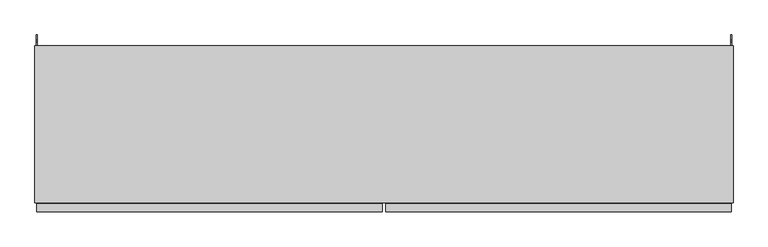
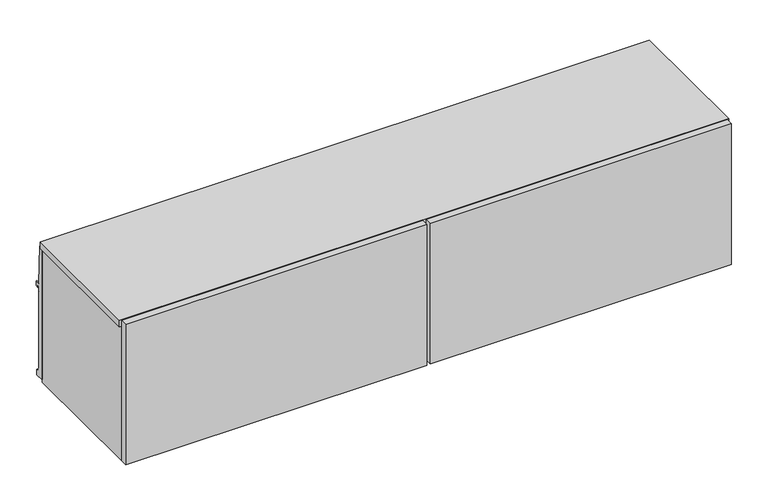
"""IFC4 building model written with IfcOpenShell, lengths in millimetres: furniture geometry, Steelcase - Universal Storage - Over the Case Bin - Flat Front : For Montage - 66W."""

from ifc_helpers import new_model, si_unit, frame, origin, place, context, project, spatial, polyline, outline, extrude, source, transform, mapped, element, save


def furniture_607f8303(model_context):
    return source(origin(), model_context, "Body", "SweptSolid", [
        extrude(outline(polyline([(842.772, -379.476), (1671.9703, -379.476), (1671.9703, -398.526), (842.772, -398.526), (842.772, -379.476)])), frame((0.0, 0.0, 1266.8226746), z_axis=(0.0, 0.0, 1.0), x_axis=(1.0, 0.0, 0.0)), (0.0, 0.0, 1.0), 409.5773254),
        extrude(outline(polyline([(4.4448587, -379.476), (833.628, -379.476), (833.628, -398.526), (4.4448587, -398.526), (4.4448587, -379.476)])), frame((0.0, 0.0, 1266.8226746), z_axis=(0.0, 0.0, 1.0), x_axis=(1.0, 0.0, 0.0)), (0.0, 0.0, 1.0), 409.5773254),
        extrude(outline(polyline([(0.0, 1657.096), (10.1677703, 1657.096), (13.3857995, 1545.8185744), (26.0095997, 1545.8185744), (26.0095997, 1532.1025512), (17.5768, 1532.1025512), (17.5768, 1537.1064608), (13.3349998, 1537.1064608), (13.3349998, 1522.6538546), (14.2747998, 1522.6538546), (14.2747998, 1296.0858527), (17.2466001, 1296.0858527), (17.2466001, 1289.7358043), (22.5806007, 1289.7358043), (22.5806007, 1274.2164027), (0.0, 1274.2164027), (0.0, 1657.096)])), frame((1670.8882, 0.0, 0.0), z_axis=(1.0, 0.0, 0.0), x_axis=(0.0, 1.0, 0.0)), (0.0, 0.0, 1.0), 1.905),
        extrude(outline(polyline([(1676.4, -377.213238), (0.0, -377.213238), (0.0, 0.0), (1676.4, 0.0), (1676.4, -377.213238)])), frame((0.0, 0.0, 1657.35), z_axis=(0.0, 0.0, 1.0), x_axis=(1.0, 0.0, 0.0)), (0.0, 0.0, 1.0), 19.05),
        extrude(outline(polyline([(15.875, -377.213238), (5.5118, -377.213238), (5.5118, 0.0), (15.875, 0.0), (15.875, -377.213238)])), frame((0.0, 0.0, 1265.428), z_axis=(0.0, 0.0, 1.0), x_axis=(1.0, 0.0, 0.0)), (0.0, 0.0, 1.0), 391.6679457),
        extrude(outline(polyline([(1675.2568665, -377.213238), (1660.525, -377.213238), (1660.525, 0.0), (1675.2568665, 0.0), (1675.2568665, -377.213238)])), frame((0.0, 0.0, 1265.428), z_axis=(0.0, 0.0, 1.0), x_axis=(1.0, 0.0, 0.0)), (0.0, 0.0, 1.0), 391.6679457),
        extrude(outline(polyline([(0.0, 1657.096), (10.1677703, 1657.096), (13.3857995, 1545.8185744), (26.0095997, 1545.8185744), (26.0095997, 1532.1025512), (17.5768, 1532.1025512), (17.5768, 1537.1064608), (13.3349998, 1537.1064608), (13.3349998, 1522.6538546), (14.2747998, 1522.6538546), (14.2747998, 1296.0858527), (17.2466001, 1296.0858527), (17.2466001, 1289.7358043), (22.5806007, 1289.7358043), (22.5806007, 1274.2164027), (0.0, 1274.2164027), (0.0, 1657.096)])), frame((3.6068, 0.0, 0.0), z_axis=(1.0, 0.0, 0.0), x_axis=(0.0, 1.0, 0.0)), (0.0, 0.0, 1.0), 1.905),
        extrude(outline(polyline([(-35.4584098, 1372.819257), (-27.0763996, 1372.819257), (-27.0763996, 1360.1191601), (-33.4264117, 1360.1191601), (-33.4264117, 1323.1622589), (-27.0763996, 1323.1622589), (-27.0763996, 1265.428), (-35.4584098, 1265.428), (-35.4584098, 1293.054213), (-46.1263996, 1293.054213), (-46.1263996, 1268.1875622), (-59.9694137, 1268.1875622), (-59.9694137, 1294.8575912), (-332.8542818, 1294.8575912), (-332.8542818, 1268.1875622), (-377.3042823, 1268.1875622), (-377.3042823, 1310.7072052), (-35.4584098, 1310.7072052), (-35.4584098, 1372.819257)])), frame((15.875, 0.0, 0.0), z_axis=(1.0, 0.0, 0.0), x_axis=(0.0, 1.0, 0.0)), (0.0, 0.0, 1.0), 1644.65),
    ])


if __name__ == "__main__":
    model = new_model("IFC4")
    model_context = context("Model", 3, world=origin())
    ifc_project = project(units=[si_unit("LENGTHUNIT", "METRE", prefix="MILLI")], contexts=[model_context])
    site = spatial("IfcSite", under=ifc_project)
    building = spatial("IfcBuilding", under=site)
    placement = place(None, origin())
    furniture_shape = furniture_607f8303(model_context)
    element("IfcFurniture", 1, ObjectType="Steelcase - Universal Storage - Over the Case Bin - Flat Front : For Montage - 66W", at=placement, inside=building, context=model_context, shape_type="MappedRepresentation", body=[
        mapped(furniture_shape, transform((0.0, 0.0, 0.0), x_axis=(1.0, 0.0, 0.0), y_axis=(0.0, 1.0, 0.0), z_axis=(0.0, 0.0, 1.0))),
    ])
    save(model, "model.ifc")
